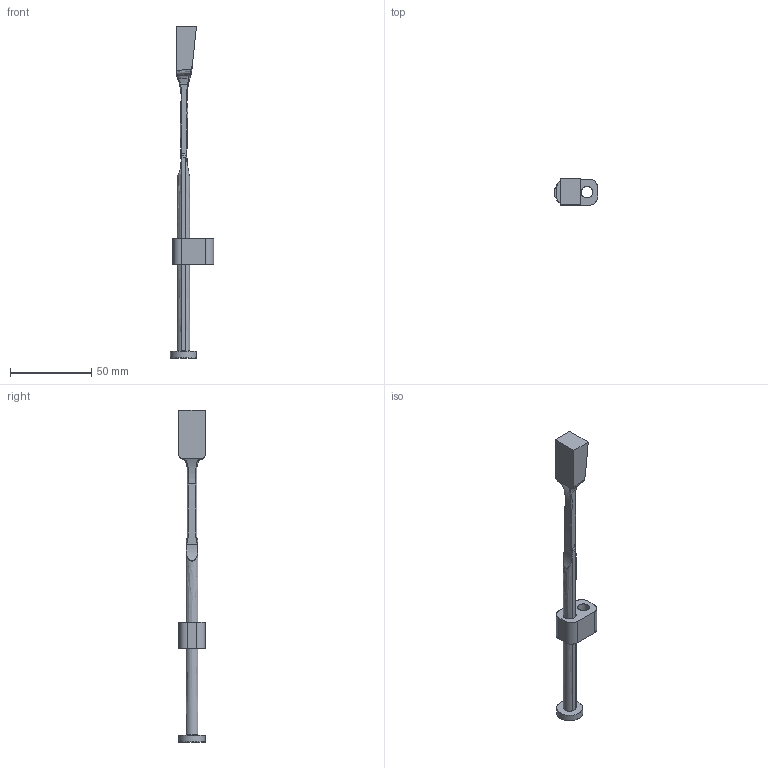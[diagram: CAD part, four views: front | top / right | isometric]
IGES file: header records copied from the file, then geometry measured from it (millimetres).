
Start section: VISI Layer Mapping Iges    VISI  0      NONE  1      WARNINGS
Global section: file name: G:\Produktkommunikation\Support\CD-Online-Katalog\3D Daten Produkte\E3200\E3200_16_12,5_200.igs; native system: VISI 20.0; preprocessor: 2.0; author: NUS; organization: Unknown; date: 20130529.090046; units: millimetre
Bounding box: 26.5 x 16.2 x 204 mm (x, y, z)
Surface area: 9754 mm2 (no closed solid volume)
Topology: 0 solids, 0 shells, 102 faces, 822 edges, 803 vertices
Faces by surface type: bspline 102
